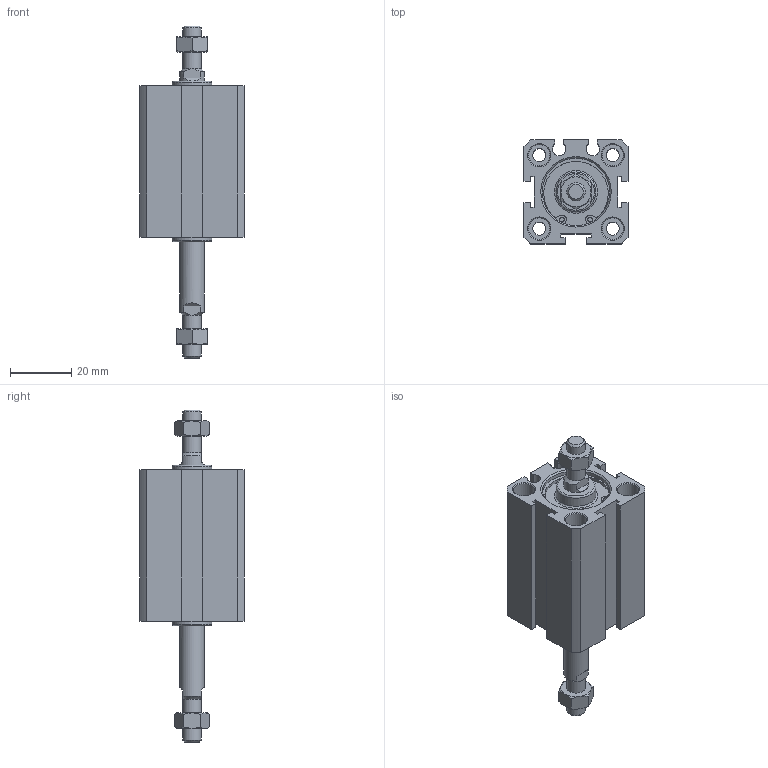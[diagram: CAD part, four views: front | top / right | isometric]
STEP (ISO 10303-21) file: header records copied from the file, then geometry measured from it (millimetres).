
FILE_DESCRIPTION((''),'2;1');
FILE_NAME('I:\3D電子目錄\氣缸\JDD\JDD-BS\JDD20-BS\JDD20x20-BS.stp','2007-02-27T13:32:59',('662F206'),(''),'Autodesk Inventor 10','Autodesk Inventor 10','');
FILE_SCHEMA(('AUTOMOTIVE_DESIGN { 1 0 10303 214 1 1 1 1 }'));
Length unit declared in the file: millimetre
Products named in the file (3): JDD20-BS; R 形環 23
Assembly tree (3 placements, depth 2):
  JDD20-BS
    JDD20-BS
    R 形環 23  x2
Bounding box: 34 x 34 x 108.5 mm (x, y, z)
Volume: 48614.2 mm3; surface area: 17697 mm2
Topology: 3 solids, 3 shells, 179 faces, 407 edges, 260 vertices
Faces by surface type: plane 84, cylinder 51, cone 32, bspline 10, torus 2
Full cylindrical faces by diameter (mm): 1.5 x6, 4.3 x4, 6 x4, 7 x8, 8 x1, 13 x2, 22 x4, 23.2 x2
Entity records: 4509 total; most frequent: CARTESIAN_POINT 953, DIRECTION 732, ORIENTED_EDGE 638, EDGE_CURVE 319, AXIS2_PLACEMENT_3D 294, EDGE_LOOP 256, VERTEX_POINT 233, FACE_OUTER_BOUND 167
